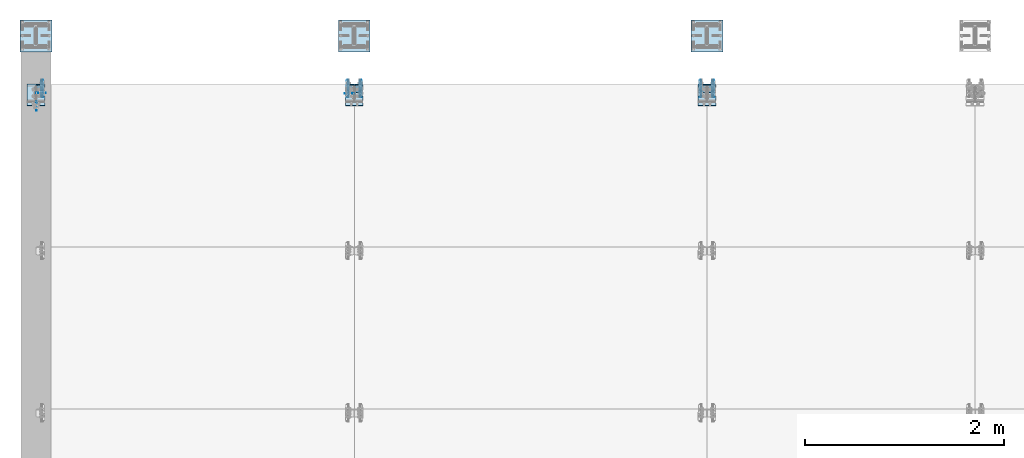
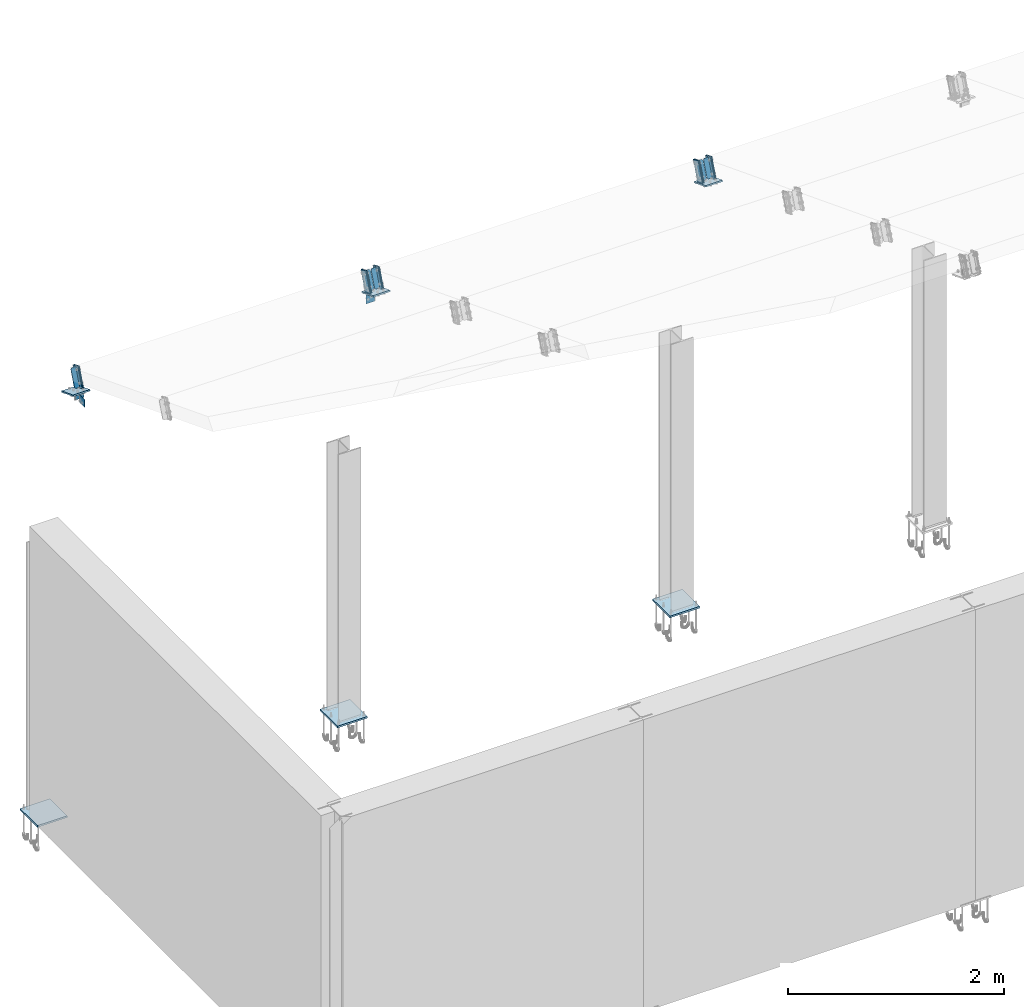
# One storey, part 4 of 72: 24 plates.
"""IFC4 building model written with IfcOpenShell, lengths in metres."""

import ifcopenshell
import ifcopenshell.guid

model = None  # the IFC model being written
_history = None  # IfcOwnerHistory: only IFC2X3 demands one
_inside = {}  # id of a spatial element -> (the spatial element, [elements in it])
_under = {}  # id of a project, library or spatial element -> (it, [spatial elements below it])
_declared = {}  # id of a project -> (the project, [libraries it declares])
_typed = {}  # id of a type object -> (the type object, [elements of that type])
_made_of = {}  # id of a material, layer set ... -> (it, [elements and type objects made of it])


def new_model(schema):
    """Start an empty IFC model of exactly this schema.

    Asked for "IFC4X3", IfcOpenShell would pick the latest addendum, in which some entities
    have other attributes; the version numbers below select the first issue.
    IFC2X3 requires an IfcOwnerHistory on every rooted entity: one is made here for all.
    """
    global model, _history
    if schema == "IFC4X3":
        model = ifcopenshell.file(schema_version=(4, 3, 0, 0))
    else:
        model = ifcopenshell.file(schema=schema)
    _inside.clear()
    _under.clear()
    _declared.clear()
    _typed.clear()
    _made_of.clear()
    _history = None
    if model.schema == "IFC2X3":
        org = make("IfcOrganization", Name="unknown")
        user = make(
            "IfcPersonAndOrganization",
            ThePerson=make("IfcPerson", FamilyName="unknown"),
            TheOrganization=org,
        )
        app = make(
            "IfcApplication",
            ApplicationDeveloper=org,
            Version="unknown",
            ApplicationFullName="unknown",
            ApplicationIdentifier="unknown",
        )
        _history = make(
            "IfcOwnerHistory",
            OwningUser=user,
            OwningApplication=app,
            ChangeAction="ADDED",
            CreationDate=0,
        )
    return model


def make(cls, **values):
    """One entity of the class cls with the attributes given. An attribute that is None is left unset."""
    return model.create_entity(
        cls, **{name: value for name, value in values.items() if value is not None}
    )


def rooted(cls, **values):
    """An entity with a GlobalId (a new one), such as an element, a storey or a relation."""
    return make(cls, GlobalId=ifcopenshell.guid.new(), OwnerHistory=_history, **values)


def si_unit(unit_type, name, prefix=None):
    """IfcSIUnit, for example si_unit("LENGTHUNIT", "METRE", prefix="MILLI")."""
    return make("IfcSIUnit", UnitType=unit_type, Prefix=prefix, Name=name)


def assignment(units):
    """IfcUnitAssignment: the units of a project."""
    return None if units is None else make("IfcUnitAssignment", Units=units)


def point(xyz):
    """IfcCartesianPoint."""
    return None if xyz is None else make("IfcCartesianPoint", Coordinates=xyz)


def direction(xyz):
    """IfcDirection."""
    return None if xyz is None else make("IfcDirection", DirectionRatios=xyz)


def frame(location, z_axis=None, x_axis=None):
    """IfcAxis2Placement3D, a coordinate frame: its origin and axes. An axis left out is left unset."""
    return make(
        "IfcAxis2Placement3D",
        Location=point(location),
        Axis=direction(z_axis),
        RefDirection=direction(x_axis),
    )


def origin_with_axes():
    """The frame at (0, 0, 0) with the z axis (0, 0, 1) and the x axis (1, 0, 0) written out."""
    return frame((0.0, 0.0, 0.0), z_axis=(0.0, 0.0, 1.0), x_axis=(1.0, 0.0, 0.0))


def place(relative_to, where):
    """IfcLocalPlacement: puts the frame where relative to a parent placement (None: the world)."""
    return make(
        "IfcLocalPlacement", PlacementRelTo=relative_to, RelativePlacement=where
    )


def context(
    kind, dimensions, precision=None, world=None, true_north=None, identifier=None
):
    """IfcGeometricRepresentationContext, for example the 3D "Model" context."""
    return make(
        "IfcGeometricRepresentationContext",
        ContextIdentifier=identifier,
        ContextType=kind,
        CoordinateSpaceDimension=dimensions,
        Precision=precision,
        WorldCoordinateSystem=world,
        TrueNorth=true_north,
    )


def project(units=None, contexts=None):
    """IfcProject with its units and contexts."""
    return rooted(
        "IfcProject",
        Name="project",
        RepresentationContexts=contexts,
        UnitsInContext=assignment(units),
    )


def spatial(cls, under=None, at=None, **own):
    """A site, building, storey or space (cls), placed at a placement, below another one or the project."""
    s = rooted(cls, ObjectPlacement=at, **own)
    if under is not None:
        _under.setdefault(under.id(), (under, []))[1].append(s)
    return s


def polyline(points):
    """IfcPolyline through the points."""
    return make("IfcPolyline", Points=[point(p) for p in points])


def outline(outer, holes=None, kind="AREA"):
    """IfcArbitraryClosedProfileDef: a profile drawn as a closed curve; with holes, ...WithVoids."""
    if holes is None:
        return make("IfcArbitraryClosedProfileDef", ProfileType=kind, OuterCurve=outer)
    return make(
        "IfcArbitraryProfileDefWithVoids",
        ProfileType=kind,
        OuterCurve=outer,
        InnerCurves=holes,
    )


def extrude(swept, where, along, depth):
    """IfcExtrudedAreaSolid: the profile swept, set in the frame where, extruded along a direction by depth."""
    return make(
        "IfcExtrudedAreaSolid",
        SweptArea=swept,
        Position=where,
        ExtrudedDirection=direction(along),
        Depth=depth,
    )


def shape(context_of_items, identifier, shape_type, items):
    """IfcShapeRepresentation: the items that make up one representation, for example the "Body"."""
    return make(
        "IfcShapeRepresentation",
        ContextOfItems=context_of_items,
        RepresentationIdentifier=identifier,
        RepresentationType=shape_type,
        Items=items,
    )


def made_of(thing, what):
    """Note that an element or type object is made of a material, layer set ...; save() writes the relation."""
    if what is not None:
        _made_of.setdefault(what.id(), (what, []))[1].append(thing)
    return thing


def type_object(cls, material=None, **own):
    """A type object (cls), such as IfcWallType, which elements share."""
    return made_of(rooted(cls, **own), material)


def element(
    cls,
    number,
    at=None,
    inside=None,
    cuts=None,
    type_object=None,
    material=None,
    context=None,
    identifier="Body",
    shape_type=None,
    held_by="IfcProductDefinitionShape",
    body=None,
    shapes=None,
    **own,
):
    """One element of the class cls, such as IfcWall. Its Tag is "e" and its number.

    at: its placement. inside: the storey or other place that contains it. cuts: it is an
    opening in that element (IfcRelVoidsElement). A single representation is given by context,
    identifier, shape_type and body (its items); several are given by shapes. held_by: the class
    of the entity that holds the representations. save() writes the other relations.
    """
    e = rooted(cls, Tag="e%d" % number, ObjectPlacement=at, **own)
    if body is not None:
        shapes = [shape(context, identifier, shape_type, body)]
    if shapes is not None:
        e.Representation = make(held_by, Representations=shapes)
    if inside is not None:
        _inside.setdefault(inside.id(), (inside, []))[1].append(e)
    if cuts is not None:
        rooted(
            "IfcRelVoidsElement", RelatingBuildingElement=cuts, RelatedOpeningElement=e
        )
    if type_object is not None:
        _typed.setdefault(type_object.id(), (type_object, []))[1].append(e)
    return made_of(e, material)


def aggregate(whole, parts):
    """IfcRelAggregates: a whole, such as a stair, and the parts it consists of."""
    return rooted("IfcRelAggregates", RelatingObject=whole, RelatedObjects=parts)


def save(model, path):
    """Write the relations noted so far, then the file.

    IfcRelAggregates (storeys below a building ...), IfcRelContainedInSpatialStructure (elements
    in a storey), IfcRelDefinesByType, IfcRelAssociatesMaterial and IfcRelDeclares: one each for
    every whole, place, type object, material and project.
    """
    for whole, parts in _under.values():
        aggregate(whole, parts)
    for where, things in _inside.values():
        rooted(
            "IfcRelContainedInSpatialStructure",
            RelatedElements=things,
            RelatingStructure=where,
        )
    for kind, things in _typed.values():
        rooted("IfcRelDefinesByType", RelatedObjects=things, RelatingType=kind)
    for what, things in _made_of.values():
        rooted("IfcRelAssociatesMaterial", RelatedObjects=things, RelatingMaterial=what)
    for by, libraries in _declared.values():
        rooted("IfcRelDeclares", RelatingContext=by, RelatedDefinitions=libraries)
    model.write(path)


model = new_model("IFC4")

# Units and contexts
model_context = context("Model", 3, precision=1e-05, world=origin_with_axes())
ifc_project = project(units=[si_unit("LENGTHUNIT", "METRE"), si_unit("AREAUNIT", "SQUARE_METRE"), si_unit("VOLUMEUNIT", "CUBIC_METRE"), si_unit("MASSUNIT", "GRAM", prefix="KILO"), si_unit("TIMEUNIT", "SECOND"), si_unit("PLANEANGLEUNIT", "RADIAN"), si_unit("SOLIDANGLEUNIT", "STERADIAN"), si_unit("THERMODYNAMICTEMPERATUREUNIT", "DEGREE_CELSIUS")], contexts=[model_context])

# Site, building, storey
placement_1 = place(None, origin_with_axes())
site = spatial("IfcSite", under=ifc_project, at=placement_1, Name="Italia", CompositionType="ELEMENT")
building = spatial("IfcBuilding", under=site, at=placement_1, Name="Uffici", CompositionType="ELEMENT")
storey = spatial("IfcBuildingStorey", under=building, at=placement_1, Name="Storey 0", CompositionType="ELEMENT", Elevation=0.0)

# Plates
plate_type_1 = type_object("IfcPlateType", Name="Collegamenti 0001_0101 0002_0102 0003_0103 0004_0104 0005_0105 0011_0111 0012_0112 0013_0113 0014_0114 0015_0115", PredefinedType="SHEET")
placement_2 = place(placement_1, origin_with_axes())
plate_1_placement = place(placement_2, origin_with_axes())
element("IfcPlate", 1, at=plate_1_placement, inside=storey, type_object=plate_type_1, Name="Collegamenti 0001_0101 0002_0102 0003_0103 0004_0104 0005_0105 0011_0111 0012_0112 0013_0113 0014_0114 0015_0115", context=model_context, shape_type="SweptSolid", body=[
    extrude(outline(polyline([(0.0, 0.0), (0.0, 0.32), (0.32, 0.32), (0.32, 0.0), (0.0, 0.0)])), frame((-0.16, 5.23, 0.02), z_axis=(0.0, 0.0, -1.0), x_axis=(0.0, 1.0, 0.0)), (0.0, 0.0, 1.0), 0.02),
])
plate_type_2 = type_object("IfcPlateType", Name="Collegamenti 0001_0101 0002_0102 0003_0103 0004_0104 0005_0105 0011_0111 0012_0112 0013_0113 0014_0114 0015_0115", PredefinedType="SHEET")
plate_2_placement = place(placement_2, origin_with_axes())
element("IfcPlate", 2, at=plate_2_placement, inside=storey, type_object=plate_type_2, Name="Collegamenti 0001_0101 0002_0102 0003_0103 0004_0104 0005_0105 0011_0111 0012_0112 0013_0113 0014_0114 0015_0115", context=model_context, shape_type="SweptSolid", body=[
    extrude(outline(polyline([(0.0, 0.0), (0.0, 0.32), (0.32, 0.32), (0.32, 0.0), (0.0, 0.0)])), frame((3.045, 5.23, 0.02), z_axis=(0.0, 0.0, -1.0), x_axis=(0.0, 1.0, 0.0)), (0.0, 0.0, 1.0), 0.02),
])
plate_type_3 = type_object("IfcPlateType", Name="Collegamenti 0001_0101 0002_0102 0003_0103 0004_0104 0005_0105 0011_0111 0012_0112 0013_0113 0014_0114 0015_0115", PredefinedType="SHEET")
plate_3_placement = place(placement_2, origin_with_axes())
element("IfcPlate", 3, at=plate_3_placement, inside=storey, type_object=plate_type_3, Name="Collegamenti 0001_0101 0002_0102 0003_0103 0004_0104 0005_0105 0011_0111 0012_0112 0013_0113 0014_0114 0015_0115", context=model_context, shape_type="SweptSolid", body=[
    extrude(outline(polyline([(0.0, 0.0), (0.0, 0.32), (0.32, 0.32), (0.32, 0.0), (0.0, 0.0)])), frame((6.595, 5.23, 0.02), z_axis=(0.0, 0.0, -1.0), x_axis=(0.0, 1.0, 0.0)), (0.0, 0.0, 1.0), 0.02),
])
plate_type_4 = type_object("IfcPlateType", Name="Collegamento 0206_0101", PredefinedType="SHEET")
plate_4_placement = place(placement_2, origin_with_axes())
element("IfcPlate", 4, at=plate_4_placement, inside=storey, type_object=plate_type_4, Name="Collegamento 0206_0101", context=model_context, shape_type="SweptSolid", body=[
    extrude(outline(polyline([(0.0, 0.0), (-0.0940003, 4.76837e-07), (-0.0939999, -0.0819998), (0.0, -0.0820003), (0.0, 0.0)])), frame((0.0075, 4.635, 5.13012), z_axis=(-1.0, 0.0, 0.0), x_axis=(0.0, -1.0, 0.0)), (0.0, 0.0, 1.0), 0.005),
])
plate_type_5 = type_object("IfcPlateType", Name="Collegamento 0206_0106", PredefinedType="SHEET")
plate_5_placement = place(placement_2, origin_with_axes())
element("IfcPlate", 5, at=plate_5_placement, inside=storey, type_object=plate_type_5, Name="Collegamento 0206_0106", context=model_context, shape_type="SweptSolid", body=[
    extrude(outline(polyline([(0.0, 0.0), (0.18, 0.0), (0.18, -0.23341), (0.0, -0.23341), (0.0, 0.0)])), frame((0.09, 4.68238, 5.17234), z_axis=(0.0, 0.361531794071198, 0.932359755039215), x_axis=(-1.0, 0.0, 0.0)), (0.0, 0.0, 1.0), 0.0150003),
])
plate_type_6 = type_object("IfcPlateType", Name="Collegamento 0206_0107", PredefinedType="SHEET")
plate_6_placement = place(placement_2, origin_with_axes())
element("IfcPlate", 6, at=plate_6_placement, inside=storey, type_object=plate_type_6, Name="Collegamento 0206_0107", context=model_context, shape_type="SweptSolid", body=[
    extrude(outline(polyline([(0.0, 0.0), (0.0949998, 0.0), (0.0949998, -0.0999994), (-2.83122e-07, -0.099999), (0.0, 0.0)])), frame((0.0979998, 4.8125, 5.11995), z_axis=(0.0, 1.0, 0.0), x_axis=(-1.0, 0.0, 0.0)), (0.0, 0.0, 1.0), 0.00500011),
])
plate_type_7 = type_object("IfcPlateType", Name="Collegamento 0206_0207", PredefinedType="SHEET")
plate_7_placement = place(placement_2, origin_with_axes())
element("IfcPlate", 7, at=plate_7_placement, inside=storey, type_object=plate_type_7, Name="Collegamento 0206_0207", context=model_context, shape_type="SweptSolid", body=[
    extrude(outline(polyline([(0.0, 0.0), (-0.0932388, -0.0361462), (-0.172805, 0.169096), (-0.0795665, 0.205242), (0.0, 0.0)])), frame((0.065, 4.77386, 5.15295), z_axis=(-1.0, 0.0, 0.0), x_axis=(0.0, -1.0, 0.0)), (0.0, 0.0, 1.0), 0.01),
])
plate_type_8 = type_object("IfcPlateType", Name="Collegamento 0206_0207", PredefinedType="SHEET")
plate_8_placement = place(placement_2, origin_with_axes())
element("IfcPlate", 8, at=plate_8_placement, inside=storey, type_object=plate_type_8, Name="Collegamento 0206_0207", context=model_context, shape_type="SweptSolid", body=[
    extrude(outline(polyline([(0.0, 0.0), (-0.0932388, -0.0361462), (-0.17276, 0.16898), (-0.0795217, 0.205126), (0.0, 0.0)])), frame((0.075, 4.77386, 5.15295), z_axis=(-1.0, 0.0, 0.0), x_axis=(0.0, -1.0, 0.0)), (0.0, 0.0, 1.0), 0.01),
])
plate_type_9 = type_object("IfcPlateType", Name="Collegamento 0206_0207", PredefinedType="SHEET")
plate_9_placement = place(placement_2, origin_with_axes())
element("IfcPlate", 9, at=plate_9_placement, inside=storey, type_object=plate_type_9, Name="Collegamento 0206_0207", context=model_context, shape_type="SweptSolid", body=[
    extrude(outline(polyline([(0.0, 0.0), (0.04005, 0.0), (0.05205, 0.0119996), (0.05205, 0.1896), (0.04005, 0.2016), (0.0, 0.2016), (0.0, 0.0)])), frame((0.055, 4.81919, 5.14538), z_axis=(0.0, 0.932389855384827, -0.361454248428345), x_axis=(-1.0, 0.0, 0.0)), (0.0, 0.0, 1.0), 0.00999968),
])
plate_type_10 = type_object("IfcPlateType", Name="Collegamento 0207_0106", PredefinedType="SHEET")
plate_10_placement = place(placement_2, origin_with_axes())
element("IfcPlate", 10, at=plate_10_placement, inside=storey, type_object=plate_type_10, Name="Collegamento 0207_0106", context=model_context, shape_type="SweptSolid", body=[
    extrude(outline(polyline([(0.0, 0.0), (-0.095, 0.0), (-0.0949998, -0.0999994), (2.38419e-07, -0.0999999), (0.0, 0.0)])), frame((3.107, 4.8075, 5.12195), z_axis=(0.0, 1.0, 0.0), x_axis=(-1.0, 0.0, 0.0)), (0.0, 0.0, 1.0), 0.00500011),
])
plate_type_11 = type_object("IfcPlateType", Name="Collegamento 0207_0107", PredefinedType="SHEET")
plate_11_placement = place(placement_2, origin_with_axes())
element("IfcPlate", 11, at=plate_11_placement, inside=storey, type_object=plate_type_11, Name="Collegamento 0207_0107", context=model_context, shape_type="SweptSolid", body=[
    extrude(outline(polyline([(0.0, 0.0), (0.18, 0.0), (0.18, -0.23341), (0.0, -0.23341), (0.0, 0.0)])), frame((3.295, 4.68238, 5.17234), z_axis=(0.0, 0.361531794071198, 0.932359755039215), x_axis=(-1.0, 0.0, 0.0)), (0.0, 0.0, 1.0), 0.0150003),
])
plate_type_12 = type_object("IfcPlateType", Name="Collegamento 0207_0206", PredefinedType="SHEET")
plate_12_placement = place(placement_2, origin_with_axes())
element("IfcPlate", 12, at=plate_12_placement, inside=storey, type_object=plate_type_12, Name="Collegamento 0207_0206", context=model_context, shape_type="SweptSolid", body=[
    extrude(outline(polyline([(0.0, 0.0), (-0.0932388, 0.0361462), (-0.0136724, 0.241388), (0.0795665, 0.205242), (0.0, 0.0)])), frame((3.14, 4.8671, 5.1168), z_axis=(1.0, 0.0, 0.0), x_axis=(0.0, 1.0, 0.0)), (0.0, 0.0, 1.0), 0.00999999),
])
plate_type_13 = type_object("IfcPlateType", Name="Collegamento 0207_0206", PredefinedType="SHEET")
plate_13_placement = place(placement_2, origin_with_axes())
element("IfcPlate", 13, at=plate_13_placement, inside=storey, type_object=plate_type_13, Name="Collegamento 0207_0206", context=model_context, shape_type="SweptSolid", body=[
    extrude(outline(polyline([(0.0, 0.0), (-0.0932388, 0.0361462), (-0.0137172, 0.241272), (0.0795217, 0.205126), (0.0, 0.0)])), frame((3.13, 4.8671, 5.1168), z_axis=(1.0, 0.0, 0.0), x_axis=(0.0, 1.0, 0.0)), (0.0, 0.0, 1.0), 0.00999999),
])
plate_type_14 = type_object("IfcPlateType", Name="Collegamento 0207_0206", PredefinedType="SHEET")
plate_14_placement = place(placement_2, origin_with_axes())
element("IfcPlate", 14, at=plate_14_placement, inside=storey, type_object=plate_type_14, Name="Collegamento 0207_0206", context=model_context, shape_type="SweptSolid", body=[
    extrude(outline(polyline([(0.0, 0.0), (0.04005, 0.0), (0.0520501, 0.0120001), (0.0520501, 0.1896), (0.04005, 0.2016), (0.0, 0.2016), (0.0, 0.0)])), frame((3.15, 4.82851, 5.14176), z_axis=(0.0, -0.932389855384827, 0.361454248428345), x_axis=(1.0, 0.0, 0.0)), (0.0, 0.0, 1.0), 0.00999968),
])
plate_type_15 = type_object("IfcPlateType", Name="Collegamento 0207_0208", PredefinedType="SHEET")
plate_15_placement = place(placement_2, origin_with_axes())
element("IfcPlate", 15, at=plate_15_placement, inside=storey, type_object=plate_type_15, Name="Collegamento 0207_0208", context=model_context, shape_type="SweptSolid", body=[
    extrude(outline(polyline([(0.0, 0.0), (-0.0932388, -0.0361462), (-0.172805, 0.169096), (-0.0795665, 0.205242), (0.0, 0.0)])), frame((3.27, 4.77386, 5.15295), z_axis=(-1.0, 0.0, 0.0), x_axis=(0.0, -1.0, 0.0)), (0.0, 0.0, 1.0), 0.00999999),
])
plate_type_16 = type_object("IfcPlateType", Name="Collegamento 0207_0208", PredefinedType="SHEET")
plate_16_placement = place(placement_2, origin_with_axes())
element("IfcPlate", 16, at=plate_16_placement, inside=storey, type_object=plate_type_16, Name="Collegamento 0207_0208", context=model_context, shape_type="SweptSolid", body=[
    extrude(outline(polyline([(0.0, 0.0), (-0.0932388, -0.0361462), (-0.17276, 0.16898), (-0.0795217, 0.205126), (0.0, 0.0)])), frame((3.28, 4.77386, 5.15295), z_axis=(-1.0, 0.0, 0.0), x_axis=(0.0, -1.0, 0.0)), (0.0, 0.0, 1.0), 0.00999999),
])
plate_type_17 = type_object("IfcPlateType", Name="Collegamento 0207_0208", PredefinedType="SHEET")
plate_17_placement = place(placement_2, origin_with_axes())
element("IfcPlate", 17, at=plate_17_placement, inside=storey, type_object=plate_type_17, Name="Collegamento 0207_0208", context=model_context, shape_type="SweptSolid", body=[
    extrude(outline(polyline([(0.0, 0.0), (0.04005, 0.0), (0.0520501, 0.0119996), (0.0520501, 0.1896), (0.04005, 0.2016), (0.0, 0.2016), (0.0, 0.0)])), frame((3.26, 4.81919, 5.14538), z_axis=(0.0, 0.932389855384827, -0.361454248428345), x_axis=(-1.0, 0.0, 0.0)), (0.0, 0.0, 1.0), 0.00999968),
])
plate_type_18 = type_object("IfcPlateType", Name="Collegamento 0208_0108", PredefinedType="SHEET")
plate_18_placement = place(placement_2, origin_with_axes())
element("IfcPlate", 18, at=plate_18_placement, inside=storey, type_object=plate_type_18, Name="Collegamento 0208_0108", context=model_context, shape_type="SweptSolid", body=[
    extrude(outline(polyline([(0.0, 0.0), (0.18, 0.0), (0.18, -0.23341), (0.0, -0.23341), (0.0, 0.0)])), frame((6.845, 4.68238, 5.17234), z_axis=(0.0, 0.361531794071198, 0.932359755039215), x_axis=(-1.0, 0.0, 0.0)), (0.0, 0.0, 1.0), 0.0150003),
])
plate_type_19 = type_object("IfcPlateType", Name="Collegamento 0208_0207", PredefinedType="SHEET")
plate_19_placement = place(placement_2, origin_with_axes())
element("IfcPlate", 19, at=plate_19_placement, inside=storey, type_object=plate_type_19, Name="Collegamento 0208_0207", context=model_context, shape_type="SweptSolid", body=[
    extrude(outline(polyline([(0.0, 0.0), (-0.0932388, 0.0361462), (-0.0136724, 0.241388), (0.0795665, 0.205242), (0.0, 0.0)])), frame((6.69, 4.8671, 5.1168), z_axis=(1.0, 0.0, 0.0), x_axis=(0.0, 1.0, 0.0)), (0.0, 0.0, 1.0), 0.0100002),
])
plate_type_20 = type_object("IfcPlateType", Name="Collegamento 0208_0207", PredefinedType="SHEET")
plate_20_placement = place(placement_2, origin_with_axes())
element("IfcPlate", 20, at=plate_20_placement, inside=storey, type_object=plate_type_20, Name="Collegamento 0208_0207", context=model_context, shape_type="SweptSolid", body=[
    extrude(outline(polyline([(0.0, 0.0), (-0.0932388, 0.0361462), (-0.0137172, 0.241272), (0.0795217, 0.205126), (0.0, 0.0)])), frame((6.68, 4.8671, 5.1168), z_axis=(1.0, 0.0, 0.0), x_axis=(0.0, 1.0, 0.0)), (0.0, 0.0, 1.0), 0.00999975),
])
plate_type_21 = type_object("IfcPlateType", Name="Collegamento 0208_0207", PredefinedType="SHEET")
plate_21_placement = place(placement_2, origin_with_axes())
element("IfcPlate", 21, at=plate_21_placement, inside=storey, type_object=plate_type_21, Name="Collegamento 0208_0207", context=model_context, shape_type="SweptSolid", body=[
    extrude(outline(polyline([(0.0, 0.0), (0.04005, 0.0), (0.0520501, 0.0120001), (0.0520501, 0.1896), (0.04005, 0.2016), (0.0, 0.2016), (0.0, 0.0)])), frame((6.7, 4.82851, 5.14176), z_axis=(0.0, -0.932389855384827, 0.361454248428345), x_axis=(1.0, 0.0, 0.0)), (0.0, 0.0, 1.0), 0.00999968),
])
plate_type_22 = type_object("IfcPlateType", Name="Collegamento 0208_0209", PredefinedType="SHEET")
plate_22_placement = place(placement_2, origin_with_axes())
element("IfcPlate", 22, at=plate_22_placement, inside=storey, type_object=plate_type_22, Name="Collegamento 0208_0209", context=model_context, shape_type="SweptSolid", body=[
    extrude(outline(polyline([(0.0, 0.0), (-0.0932388, -0.0361462), (-0.172805, 0.169096), (-0.0795665, 0.205242), (0.0, 0.0)])), frame((6.82, 4.77386, 5.15295), z_axis=(-1.0, 0.0, 0.0), x_axis=(0.0, -1.0, 0.0)), (0.0, 0.0, 1.0), 0.0100002),
])
plate_type_23 = type_object("IfcPlateType", Name="Collegamento 0208_0209", PredefinedType="SHEET")
plate_23_placement = place(placement_2, origin_with_axes())
element("IfcPlate", 23, at=plate_23_placement, inside=storey, type_object=plate_type_23, Name="Collegamento 0208_0209", context=model_context, shape_type="SweptSolid", body=[
    extrude(outline(polyline([(0.0, 0.0), (-0.0932388, -0.0361462), (-0.17276, 0.16898), (-0.0795217, 0.205126), (0.0, 0.0)])), frame((6.83, 4.77386, 5.15295), z_axis=(-1.0, 0.0, 0.0), x_axis=(0.0, -1.0, 0.0)), (0.0, 0.0, 1.0), 0.00999975),
])
plate_type_24 = type_object("IfcPlateType", Name="Collegamento 0208_0209", PredefinedType="SHEET")
plate_24_placement = place(placement_2, origin_with_axes())
element("IfcPlate", 24, at=plate_24_placement, inside=storey, type_object=plate_type_24, Name="Collegamento 0208_0209", context=model_context, shape_type="SweptSolid", body=[
    extrude(outline(polyline([(0.0, 0.0), (0.04005, 0.0), (0.0520501, 0.0119996), (0.0520501, 0.1896), (0.04005, 0.2016), (0.0, 0.2016), (0.0, 0.0)])), frame((6.81, 4.81919, 5.14538), z_axis=(0.0, 0.932389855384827, -0.361454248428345), x_axis=(-1.0, 0.0, 0.0)), (0.0, 0.0, 1.0), 0.00999968),
])

save(model, "model.ifc")
